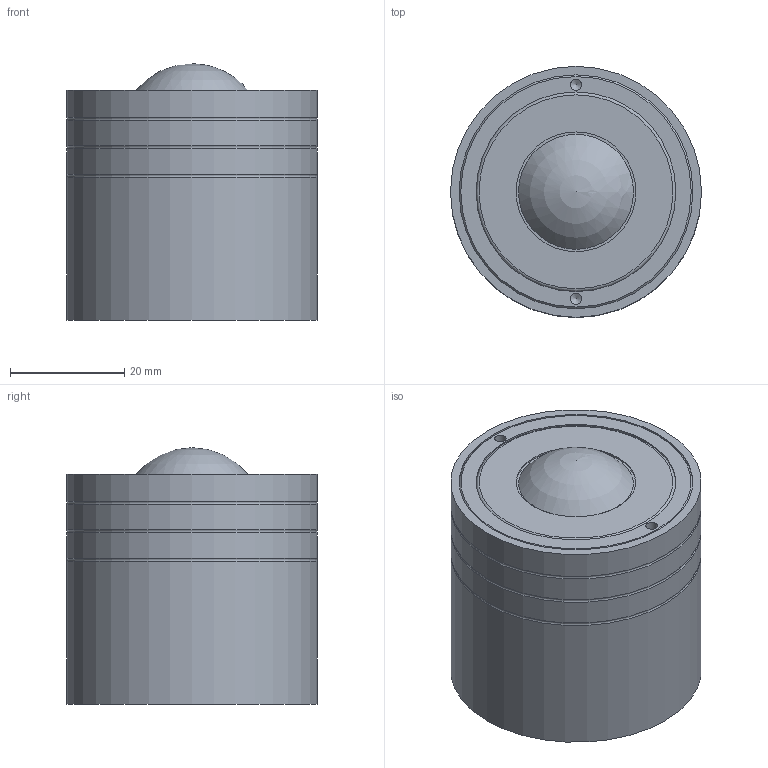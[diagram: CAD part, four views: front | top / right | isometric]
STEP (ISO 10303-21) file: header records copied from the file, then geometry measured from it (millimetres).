
FILE_DESCRIPTION(/* description */ (''),/* implementation_level */ '2;1');
FILE_NAME(/* name */ 'Z:\33-Suga\フリー検討\★web 用 STP化\IS-25BD・CH・EN\IS-25BD・CH・EN.stp',/* time_stamp */ '2015-07-30T16:02:29+09:00',/* author */ ('m-susga'),/* organization */ (''),/* preprocessor_version */ 'ST-DEVELOPER v16.1',/* originating_system */ 'Autodesk Inventor 2016',/* authorisation */ '');
FILE_SCHEMA (('AUTOMOTIVE_DESIGN { 1 0 10303 214 3 1 1 }'));
Length unit declared in the file: millimetre
Products named in the file (1): IS-25BD・CH・EN
Bounding box: 44 x 44 x 44.98 mm (x, y, z)
Volume: 61765.4 mm3; surface area: 8971.3 mm2
Topology: 1 solids, 1 shells, 24 faces, 45 edges, 27 vertices
Faces by surface type: cylinder 10, plane 6, torus 4, cone 3, sphere 1
Full cylindrical faces by diameter (mm): 2 x2, 12 x1, 21 x1, 35 x1, 41 x1, 44 x4
Entity records: 506 total; most frequent: DIRECTION 96, CARTESIAN_POINT 71, AXIS2_PLACEMENT_3D 48, EDGE_LOOP 46, ORIENTED_EDGE 46, FACE_OUTER_BOUND 24, ADVANCED_FACE 24, CIRCLE 23
